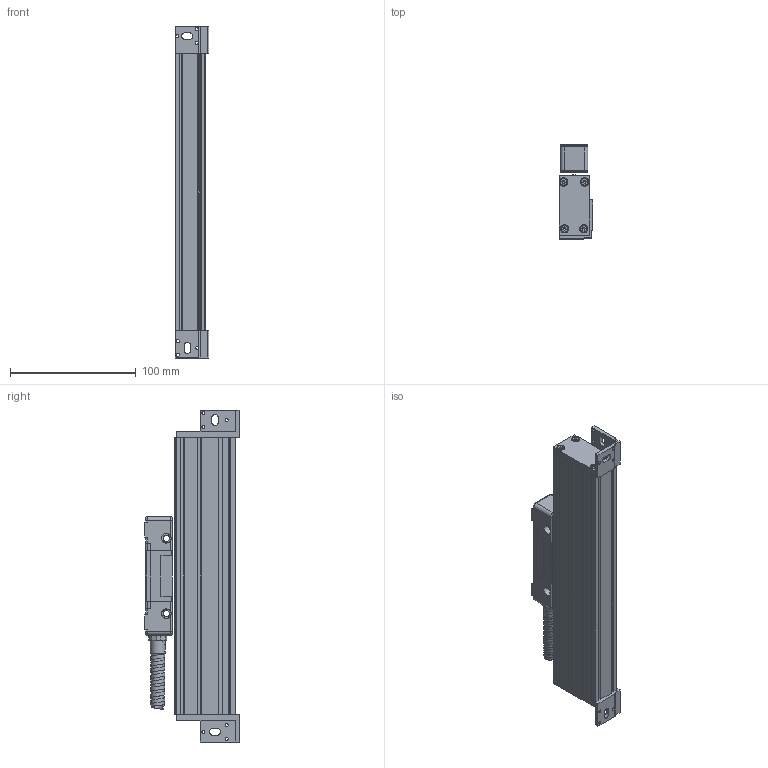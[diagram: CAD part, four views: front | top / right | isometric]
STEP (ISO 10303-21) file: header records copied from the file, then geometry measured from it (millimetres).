
FILE_DESCRIPTION (( 'STEP AP214' ), '1' );
FILE_NAME ('MLC310x0100.STEP', '2021-05-08T11:43:58', ( '' ), ( '' ), 'SwSTEP 2.0', 'SolidWorks 2014', '' );
FILE_SCHEMA (( 'AUTOMOTIVE_DESIGN' ));
Length unit declared in the file: millimetre
Products named in the file (1): MLC310x0100
Bounding box: 27 x 75.15 x 264 mm (x, y, z)
Surface area: 62932.5 mm2 (no closed solid volume)
Topology: 0 solids, 25 shells, 514 faces, 1876 edges, 1349 vertices
Faces by surface type: plane 221, cylinder 155, cone 83, bspline 37, torus 18
Entity records: 36474 total; most frequent: CARTESIAN_POINT 15076, DIRECTION 3233, ORIENTED_EDGE 3073, EDGE_CURVE 1860, VERTEX_POINT 1349, AXIS2_PLACEMENT_3D 1118, VECTOR 997, LINE 997
